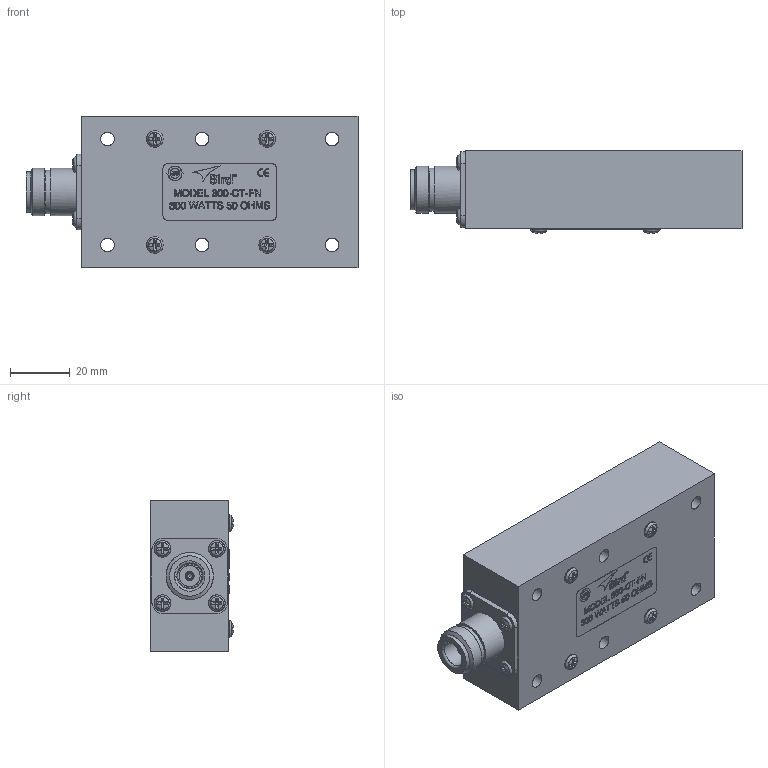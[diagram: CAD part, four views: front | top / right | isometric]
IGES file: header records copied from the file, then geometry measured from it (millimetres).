
Start section: C
Global section: file name: 300-CT-FN.igs; native system: By Siemens PLM Incorporated; preprocessor: XPlus GENERIC/IGES 19.0.9; author: Author; organization: Title; date: 20180405.141603; units: millimetre
Bounding box: 111.46 x 27.77 x 50.8 mm (x, y, z)
Surface area: 21327.2 mm2 (no closed solid volume)
Topology: 0 solids, 0 shells, 916 faces, 5905 edges, 5904 vertices
Faces by surface type: bspline 916
